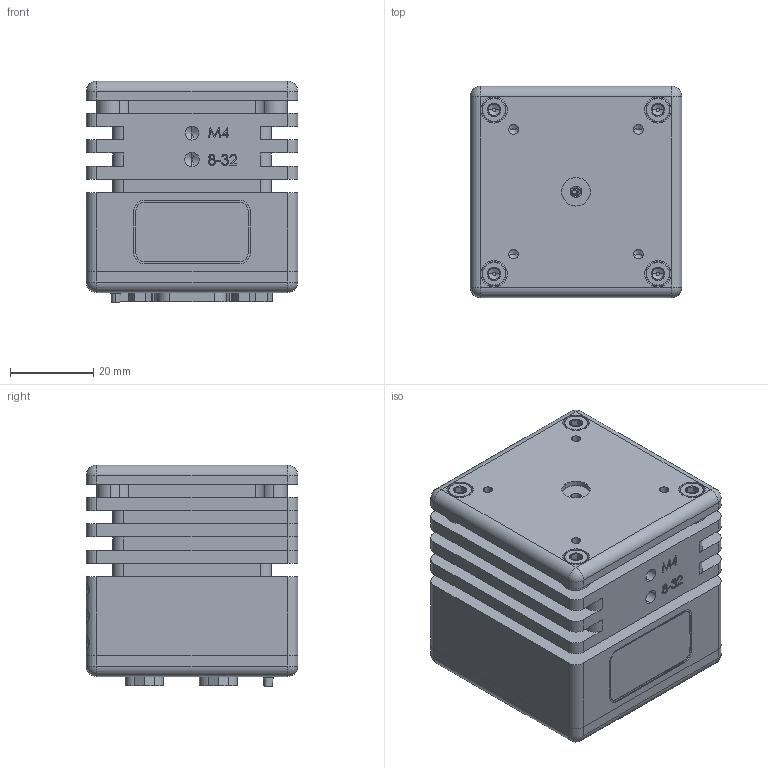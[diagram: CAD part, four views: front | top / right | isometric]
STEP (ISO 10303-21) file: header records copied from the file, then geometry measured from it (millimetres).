
FILE_DESCRIPTION (( 'STEP AP214' ), '1' );
FILE_NAME ('222 LaserMount.STEP', '2023-03-16T17:32:40', ( '' ), ( '' ), 'SwSTEP 2.0', 'SolidWorks 2021', '' );
FILE_SCHEMA (( 'AUTOMOTIVE_DESIGN' ));
Length unit declared in the file: inch
Products named in the file (1): 222 LaserMount
Bounding box: 50.8 x 50.8 x 53.29 mm (x, y, z)
Volume: 109147.1 mm3; surface area: 34273.4 mm2
Topology: 5 solids, 6 shells, 2582 faces, 6617 edges, 4269 vertices
Faces by surface type: plane 1230, bspline 633, cylinder 439, cone 223, torus 37, sphere 20
Entity records: 146519 total; most frequent: CARTESIAN_POINT 54034, ORIENTED_EDGE 13166, DIRECTION 10264, EDGE_CURVE 6583, VERTEX_POINT 4269, LINE 3874, VECTOR 3874, AXIS2_PLACEMENT_3D 3195
